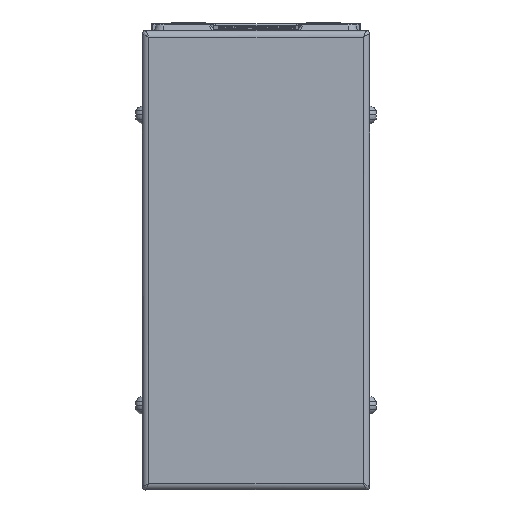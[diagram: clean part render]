
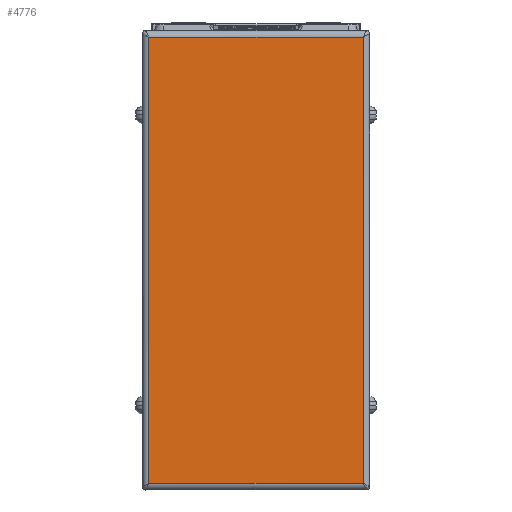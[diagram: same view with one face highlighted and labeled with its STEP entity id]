
A CAD part, left-side view. The second image highlights one B-rep face of the part: STEP entity #4776.
In plain terms, the highlighted planar face has unit normal (-1, 0, 0) as drawn and (0, 0, 1) by its records, which use the part's own axes.
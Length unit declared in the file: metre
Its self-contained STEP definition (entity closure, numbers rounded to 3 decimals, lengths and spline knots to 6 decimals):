
#4776=ADVANCED_FACE('',(#9647),#9648,.T.);
#9647=FACE_OUTER_BOUND('',#18100,.T.);
#9648=PLANE('',#18101);
#18100=EDGE_LOOP('',(#30145,#30146,#30147,#30148));
#18101=AXIS2_PLACEMENT_3D('',#30149,#30150,#30151);
#30145=ORIENTED_EDGE('',*,*,#36742,.F.);
#30146=ORIENTED_EDGE('',*,*,#36743,.F.);
#30147=ORIENTED_EDGE('',*,*,#35169,.F.);
#30148=ORIENTED_EDGE('',*,*,#36106,.F.);
#30149=CARTESIAN_POINT('',(-0.054,-0.014256,0.033889));
#30150=DIRECTION('',(0.0,0.0,1.0));
#30151=DIRECTION('',(1.0,0.0,0.0));
#35169=EDGE_CURVE('',#42023,#40521,#42026,.T.);
#36106=EDGE_CURVE('',#43267,#42023,#43270,.T.);
#36742=EDGE_CURVE('',#44056,#43267,#44057,.T.);
#36743=EDGE_CURVE('',#40521,#44056,#44058,.T.);
#40521=VERTEX_POINT('',#49326);
#42023=VERTEX_POINT('',#51531);
#42026=LINE('',#51543,#51544);
#43267=VERTEX_POINT('',#53314);
#43270=LINE('',#53326,#53327);
#44056=VERTEX_POINT('',#54903);
#44057=LINE('',#54904,#54905);
#44058=LINE('',#54906,#54907);
#49326=CARTESIAN_POINT('',(-0.12,0.017444,0.033889));
#51531=CARTESIAN_POINT('',(-0.12,-0.045956,0.033889));
#51543=CARTESIAN_POINT('',(-0.12,-0.014256,0.033889));
#51544=VECTOR('',#59165,1.0);
#53314=CARTESIAN_POINT('',(0.012,-0.045956,0.033889));
#53326=CARTESIAN_POINT('',(-0.054,-0.045956,0.033889));
#53327=VECTOR('',#60172,1.0);
#54903=CARTESIAN_POINT('',(0.012,0.017444,0.033889));
#54904=CARTESIAN_POINT('',(0.012,-0.014256,0.033889));
#54905=VECTOR('',#60723,1.0);
#54906=CARTESIAN_POINT('',(-0.054,0.017444,0.033889));
#54907=VECTOR('',#60724,1.0);
#59165=DIRECTION('',(0.0,1.0,0.0));
#60172=DIRECTION('',(-1.0,0.0,0.0));
#60723=DIRECTION('',(0.0,-1.0,0.0));
#60724=DIRECTION('',(1.0,0.0,0.0));
